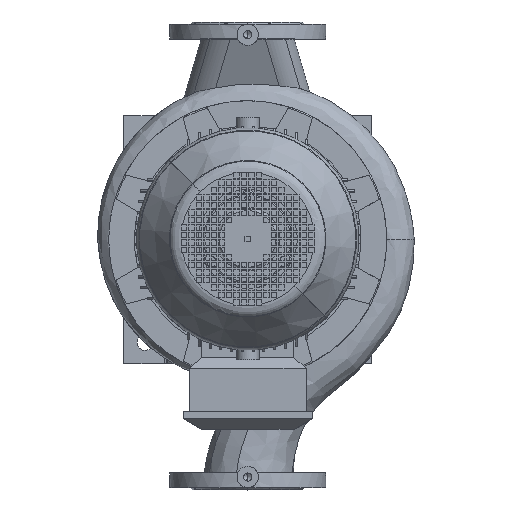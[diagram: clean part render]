
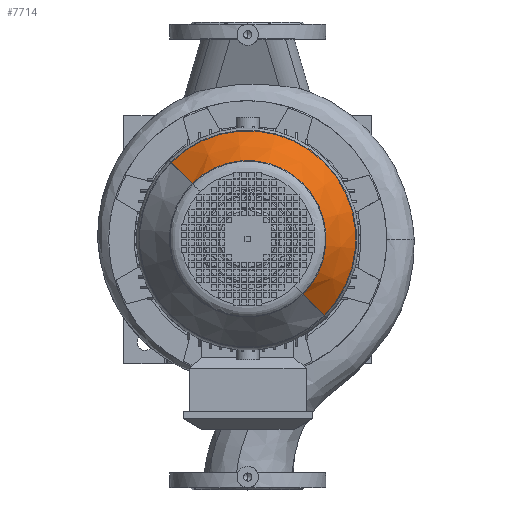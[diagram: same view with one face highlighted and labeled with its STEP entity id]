
A CAD part, top view. The second image highlights one B-rep face of the part: STEP entity #7714.
In plain terms, the highlighted conical face has half-angle 34.992 degrees and reference radius 104.5 mm.
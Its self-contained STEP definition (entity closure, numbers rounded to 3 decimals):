
#7714=ADVANCED_FACE('',(#19096),#19097,.T.);
#9410=EDGE_CURVE('',#22034,#22035,#22036,.T.);
#9412=EDGE_CURVE('',#22038,#22039,#22040,.T.);
#19096=FACE_OUTER_BOUND('',#37477,.T.);
#19097=CONICAL_SURFACE('',#37478,104.5,0.611);
#22034=VERTEX_POINT('',#40419);
#22035=VERTEX_POINT('',#40420);
#22036=CIRCLE('',#40421,153.385);
#22038=VERTEX_POINT('',#40424);
#22039=VERTEX_POINT('',#40425);
#22040=CIRCLE('',#40426,110.472);
#37477=EDGE_LOOP('',(#63130,#63131,#63132,#63133));
#37478=AXIS2_PLACEMENT_3D('',#63134,#63135,#63136);
#40419=CARTESIAN_POINT('',(153.385,0.,93.165));
#40420=CARTESIAN_POINT('',(-153.385,0.,93.165));
#40421=AXIS2_PLACEMENT_3D('',#71734,#71735,#71736);
#40424=CARTESIAN_POINT('',(-110.472,0.,154.469));
#40425=CARTESIAN_POINT('',(110.472,0.,154.469));
#40426=AXIS2_PLACEMENT_3D('',#71737,#71738,#71739);
#63130=ORIENTED_EDGE('',*,*,#79273,.F.);
#63131=ORIENTED_EDGE('',*,*,#9410,.F.);
#63132=ORIENTED_EDGE('',*,*,#79274,.F.);
#63133=ORIENTED_EDGE('',*,*,#9412,.F.);
#63134=CARTESIAN_POINT('',(0.0,0.,163.0));
#63135=DIRECTION('',(-0.0,-0.0,-1.0));
#63136=DIRECTION('',(-1.0,0.,0.0));
#71734=CARTESIAN_POINT('',(0.0,0.,93.165));
#71735=DIRECTION('',(-0.0,0.0,-1.0));
#71736=DIRECTION('',(-1.0,0.,0.0));
#71737=CARTESIAN_POINT('',(0.,0.,154.469));
#71738=DIRECTION('',(0.0,0.0,1.0));
#71739=DIRECTION('',(-1.0,0.,0.0));
#79273=EDGE_CURVE('',#22035,#22038,#83963,.T.);
#79274=EDGE_CURVE('',#22039,#22034,#83964,.T.);
#83963=LINE('',#94126,#94127);
#83964=LINE('',#94128,#94129);
#94126=CARTESIAN_POINT('',(-104.5,0.,163.0));
#94127=VECTOR('',#100868,1.0);
#94128=CARTESIAN_POINT('',(104.5,0.,163.0));
#94129=VECTOR('',#100869,1.0);
#100868=DIRECTION('',(0.573,0.,0.819));
#100869=DIRECTION('',(0.573,0.,-0.819));
